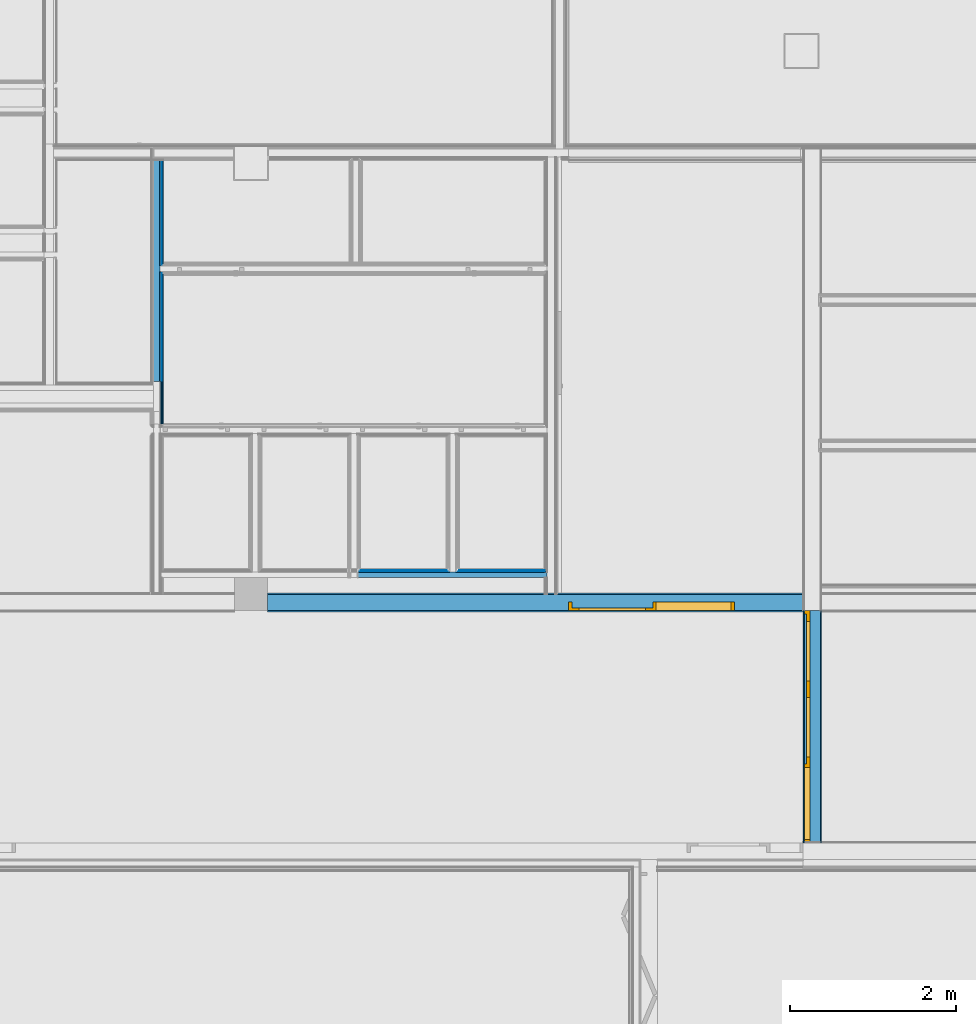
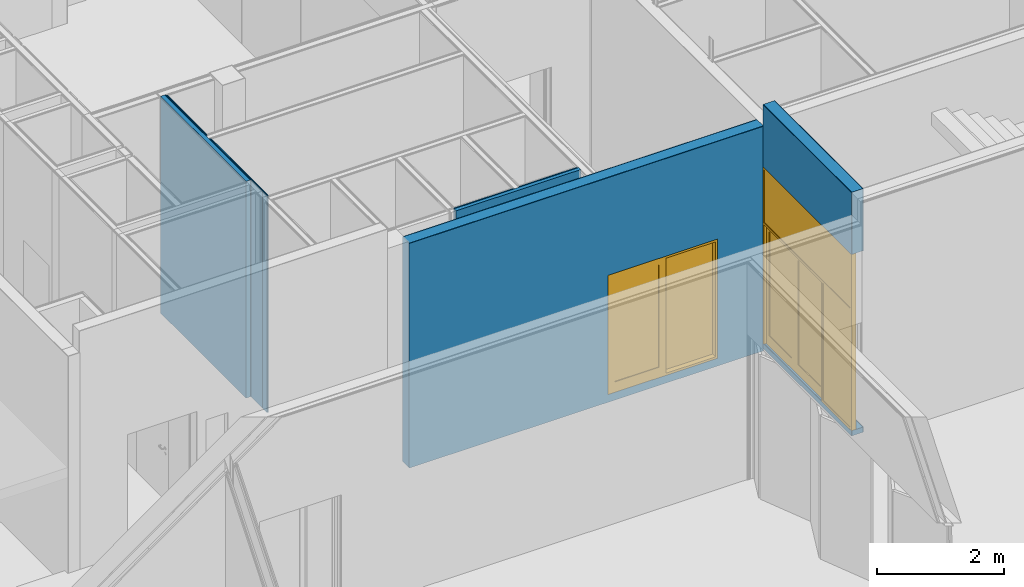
# One storey, part 199 of 260: 17 building element parts, 2 doors, 2 openings, 6 elements without a shape of their own.
"""IFC2X3 building model written with IfcOpenShell, lengths in millimetres."""

from ifc_helpers import new_model, entity, si_unit, converted_unit, derived_unit, money_unit, direction, frame, origin_with_axes, place, context, subcontext, project, spatial, open_shell, faceted_brep, surface_model, material, type_object, element, fill, aggregate, save


model = new_model("IFC2X3")

# Units and contexts
model_context = context("Model", 3, precision=0.01, world=origin_with_axes(), true_north=direction((0.0, 1.0)))
body_context = subcontext(model_context, "Body", "Model", "MODEL_VIEW")
ifc_project = project(units=[si_unit("LENGTHUNIT", "METRE", prefix="MILLI"), si_unit("AREAUNIT", "SQUARE_METRE"), si_unit("VOLUMEUNIT", "CUBIC_METRE"), converted_unit("PLANEANGLEUNIT", "DEGREE", entity("IfcPlaneAngleMeasure", 0.0174532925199), si_unit("PLANEANGLEUNIT", "RADIAN"), dimensions=[0, 0, 0, 0, 0, 0, 0]), money_unit("EUR"), converted_unit("TIMEUNIT", "Year", entity("IfcTimeMeasure", 31556926.0), si_unit("TIMEUNIT", "SECOND"), dimensions=[0, 0, 1, 0, 0, 0, 0]), si_unit("MASSUNIT", "GRAM", prefix="KILO"), si_unit("THERMODYNAMICTEMPERATUREUNIT", "DEGREE_CELSIUS"), si_unit("LUMINOUSINTENSITYUNIT", "LUMEN"), si_unit("ENERGYUNIT", "JOULE", prefix="MEGA"), derived_unit("THERMALCONDUCTANCEUNIT", [(si_unit("POWERUNIT", "WATT"), 1), (si_unit("LENGTHUNIT", "METRE"), -1), (si_unit("THERMODYNAMICTEMPERATUREUNIT", "KELVIN"), -1)]), derived_unit("SPECIFICHEATCAPACITYUNIT", [(si_unit("ENERGYUNIT", "JOULE"), 1), (si_unit("MASSUNIT", "GRAM", prefix="KILO"), -1), (si_unit("THERMODYNAMICTEMPERATUREUNIT", "KELVIN"), -1)]), derived_unit("MASSDENSITYUNIT", [(si_unit("MASSUNIT", "GRAM", prefix="KILO"), 1), (si_unit("VOLUMEUNIT", "CUBIC_METRE"), -1)])], contexts=[model_context])

# Site, building, storey
site_placement = place(None, origin_with_axes())
site = spatial("IfcSite", under=ifc_project, at=site_placement, Name="Kolde pst 67a", CompositionType="ELEMENT")
building_placement = place(site_placement, origin_with_axes())
building = spatial("IfcBuilding", under=site, at=building_placement, Name="Riigigümnaasium", CompositionType="ELEMENT")
storey_placement = place(building_placement, origin_with_axes())
storey = spatial("IfcBuildingStorey", under=building, at=storey_placement, Name="1. korrus", CompositionType="ELEMENT", Elevation=0.0)

# Door
door_style_1 = type_object("IfcDoorStyle", Name="Door with Sidelight on Side 2 25", ConstructionType="NOTDEFINED", OperationType="SINGLE_SWING_RIGHT", ParameterTakesPrecedence=False, Sizeable=False)
wall_4_placement = place(storey_placement, frame((70149.9993262, 10899.9619407, -150.0), z_axis=(0.0, 0.0, 1.0), x_axis=(1.0, 0.0, 0.0)))
opening_2_placement = place(wall_4_placement, frame((4629.47744012, 0.0, 150.0), z_axis=(0.0, 0.0, 1.0), x_axis=(1.0, 0.0, 0.0)))
door_1_placement = place(opening_2_placement, frame((1000.0, 0.0, 0.0), z_axis=(0.0, 0.0, 1.0), x_axis=(-1.0, 0.0, 0.0)))
door_1 = element("IfcDoor", 1, at=door_1_placement, inside=storey, type_object=door_style_1, Name="Siseuks", ObjectType="DOOR", OverallHeight=2300.0, OverallWidth=2000.0, context=body_context, shape_type="SurfaceModel", body=[
    faceted_brep([(0.0, 210.0, 0.0), (40.0, 210.0, 0.0), (40.0, 95.0, 0.0), (0.0, 95.0, 0.0), (0.0, 210.0, 2260.0), (40.0, 210.0, 2260.0), (40.0, 210.0, 40.0), (40.0, 95.0, 40.0), (40.0, 95.0, 2260.0), (0.0, 95.0, 2260.0)], [[[0, 1, 2, 3]], [[0, 4, 5, 6, 1]], [[1, 6, 7, 2]], [[3, 2, 7, 8, 9]], [[4, 0, 3, 9]], [[5, 4, 9, 8]], [[6, 5, 8, 7]]]),
    faceted_brep([(984.0, 170.0, 0.0), (984.0, 170.0, 2260.0), (984.0, 95.0, 2260.0), (984.0, 95.0, 0.0), (972.0, 170.0, 2260.0), (972.0, 170.0, 0.0), (972.0, 210.0, 2260.0), (944.0, 210.0, 2260.0), (944.0, 95.0, 2260.0), (944.0, 95.0, 0.0), (944.0, 95.0, 40.0), (944.0, 210.0, 0.0), (972.0, 210.0, 0.0), (944.0, 210.0, 40.0)], [[[0, 1, 2, 3]], [[4, 1, 0, 5]], [[4, 6, 7, 8, 2, 1]], [[9, 3, 2, 8, 10]], [[5, 0, 3, 9, 11, 12]], [[6, 4, 5, 12]], [[6, 12, 11, 13, 7]], [[13, 10, 8, 7]], [[11, 9, 10, 13]]]),
    faceted_brep([(40.0, 210.0, 40.0), (40.0, 210.0, 0.0), (40.0, 95.0, 0.0), (40.0, 95.0, 40.0), (944.0, 210.0, 40.0), (944.0, 210.0, 0.0), (944.0, 95.0, 0.0), (944.0, 95.0, 40.0)], [[[0, 1, 2, 3]], [[0, 4, 5, 1]], [[1, 5, 6, 2]], [[3, 2, 6, 7]], [[4, 0, 3, 7]], [[5, 4, 7, 6]]]),
    faceted_brep([(1972.0, 170.0, 2260.0), (1960.0, 170.0, 2260.0), (1960.0, 95.0, 2260.0), (2000.0, 95.0, 2260.0), (2000.0, 210.0, 2260.0), (1972.0, 210.0, 2260.0), (1972.0, 170.0, 0.0), (1960.0, 170.0, 0.0), (1960.0, 95.0, 0.0), (2000.0, 95.0, 0.0), (2000.0, 210.0, 0.0), (1972.0, 210.0, 0.0)], [[[0, 1, 2, 3, 4, 5]], [[1, 0, 6, 7]], [[1, 7, 8, 2]], [[3, 2, 8, 9]], [[4, 3, 9, 10]], [[11, 5, 4, 10]], [[0, 5, 11, 6]], [[6, 11, 10, 9, 8, 7]]]),
    faceted_brep([(972.0, 210.0, 2272.0), (972.0, 210.0, 2260.0), (944.0, 210.0, 2260.0), (40.0, 210.0, 2260.0), (0.0, 210.0, 2260.0), (0.0, 210.0, 2300.0), (2000.0, 210.0, 2300.0), (2000.0, 210.0, 2260.0), (1972.0, 210.0, 2260.0), (1972.0, 210.0, 2272.0), (972.0, 170.0, 2272.0), (972.0, 170.0, 2260.0), (1960.0, 170.0, 2260.0), (1960.0, 95.0, 2260.0), (984.0, 95.0, 2260.0), (944.0, 95.0, 2260.0), (40.0, 95.0, 2260.0), (0.0, 95.0, 2260.0), (0.0, 95.0, 2300.0), (2000.0, 95.0, 2300.0), (2000.0, 95.0, 2260.0), (1972.0, 170.0, 2260.0), (1972.0, 170.0, 2272.0)], [[[0, 1, 2, 3, 4, 5, 6, 7, 8, 9]], [[1, 0, 10, 11]], [[11, 12, 13, 14, 15, 2, 1]], [[2, 15, 16, 3]], [[3, 16, 17, 4]], [[4, 17, 18, 5]], [[5, 18, 19, 6]], [[6, 19, 20, 7]], [[21, 8, 7, 20, 13, 12]], [[9, 8, 21, 22]], [[0, 9, 22, 10]], [[21, 12, 11, 10, 22]], [[13, 20, 19, 18, 17, 16, 15, 14]]]),
    faceted_brep([(1972.0, 210.0, 200.0), (1972.0, 170.0, 200.0), (1872.0, 170.0, 200.0), (1872.0, 210.0, 200.0), (1972.0, 210.0, 2172.0), (1972.0, 170.0, 2172.0), (1872.0, 170.0, 2172.0), (1872.0, 210.0, 2172.0)], [[[0, 1, 2, 3]], [[4, 5, 1, 0]], [[1, 5, 6, 2]], [[3, 2, 6, 7]], [[0, 3, 7, 4]], [[7, 6, 5, 4]]]),
    faceted_brep([(972.0, 210.0, 200.0), (972.0, 170.0, 200.0), (972.0, 170.0, 2172.0), (972.0, 210.0, 2172.0), (1072.0, 210.0, 200.0), (1072.0, 170.0, 200.0), (1072.0, 170.0, 2172.0), (1072.0, 210.0, 2172.0)], [[[0, 1, 2, 3]], [[4, 5, 1, 0]], [[1, 5, 6, 2]], [[3, 2, 6, 7]], [[0, 3, 7, 4]], [[7, 6, 5, 4]]]),
    faceted_brep([(1972.0, 210.0, 0.0), (1972.0, 170.0, 0.0), (972.0, 170.0, 0.0), (972.0, 210.0, 0.0), (1972.0, 210.0, 200.0), (1972.0, 170.0, 200.0), (1872.0, 170.0, 200.0), (1072.0, 170.0, 200.0), (972.0, 170.0, 200.0), (972.0, 210.0, 200.0), (1072.0, 210.0, 200.0), (1872.0, 210.0, 200.0)], [[[0, 1, 2, 3]], [[4, 5, 1, 0]], [[1, 5, 6, 7, 8, 2]], [[3, 2, 8, 9]], [[0, 3, 9, 10, 11, 4]], [[11, 6, 5, 4]], [[10, 7, 6, 11]], [[9, 8, 7, 10]]]),
    faceted_brep([(1972.0, 210.0, 2272.0), (1972.0, 170.0, 2272.0), (1972.0, 170.0, 2172.0), (1972.0, 210.0, 2172.0), (972.0, 210.0, 2272.0), (972.0, 170.0, 2272.0), (972.0, 170.0, 2172.0), (1072.0, 170.0, 2172.0), (1872.0, 170.0, 2172.0), (1872.0, 210.0, 2172.0), (1072.0, 210.0, 2172.0), (972.0, 210.0, 2172.0)], [[[0, 1, 2, 3]], [[4, 5, 1, 0]], [[1, 5, 6, 7, 8, 2]], [[3, 2, 8, 9]], [[0, 3, 9, 10, 11, 4]], [[11, 6, 5, 4]], [[10, 7, 6, 11]], [[9, 8, 7, 10]]]),
    surface_model("IfcShellBasedSurfaceModel", [(1872.0, 196.0, 200.0), (1072.0, 196.0, 200.0), (1072.0, 196.0, 2172.0), (1872.0, 196.0, 2172.0)], [open_shell([[[0, 1, 2, 3]]])]),
    surface_model("IfcShellBasedSurfaceModel", [(1872.0, 184.0, 200.0), (1872.0, 184.0, 2172.0), (1072.0, 184.0, 2172.0), (1072.0, 184.0, 200.0)], [open_shell([[[0, 1, 2, 3]]])]),
    surface_model("IfcShellBasedSurfaceModel", [(40.0, 119.0, 40.0), (40.0, 119.0, 2260.0), (944.0, 119.0, 2260.0), (944.0, 119.0, 40.0)], [open_shell([[[0, 1, 2, 3]]])]),
    surface_model("IfcShellBasedSurfaceModel", [(40.0, 107.0, 40.0), (944.0, 107.0, 40.0), (944.0, 107.0, 2260.0), (40.0, 107.0, 2260.0)], [open_shell([[[0, 1, 2, 3]]])]),
])

door_style_2 = type_object("IfcDoorStyle", Name="Double Door with Sidelight, Transom 25", ConstructionType="NOTDEFINED", OperationType="USERDEFINED", ParameterTakesPrecedence=False, Sizeable=False)
wall_1_placement = place(storey_placement, frame((76619.9946975, 10699.9640326, -100.0), z_axis=(0.0, 0.0, 1.0), x_axis=(0.0, -1.0, 0.0)))
opening_1_placement = place(wall_1_placement, frame((1399.9640326, 0.0, 100.0), z_axis=(0.0, 0.0, 1.0), x_axis=(1.0, 0.0, 0.0)))
door_2_placement = place(opening_1_placement, frame((-1400.0, 0.0, 0.0), z_axis=(0.0, 0.0, 1.0), x_axis=(1.0, 0.0, 0.0)))
door_2 = element("IfcDoor", 2, at=door_2_placement, inside=storey, type_object=door_style_2, Name="Kahepoolne siseuks", ObjectType="DOOR", OverallHeight=3400.0, OverallWidth=2800.0, context=body_context, shape_type="SurfaceModel", body=[
    faceted_brep([(2800.0, 70.0, 0.0), (2800.0, -10.0, 0.0), (2760.0, -10.0, 0.0), (2760.0, 70.0, 0.0), (2800.0, 70.0, 3360.0), (2800.0, -10.0, 3360.0), (2760.0, -10.0, 3360.0), (2760.0, -10.0, 2340.0), (2760.0, -10.0, 2300.0), (2760.0, -10.0, 40.0), (2760.0, 70.0, 40.0), (2760.0, 70.0, 2300.0), (2760.0, 70.0, 2340.0), (2760.0, 70.0, 3360.0)], [[[0, 1, 2, 3]], [[4, 5, 1, 0]], [[1, 5, 6, 7, 8, 9, 2]], [[3, 2, 9, 10]], [[0, 3, 10, 11, 12, 13, 4]], [[13, 6, 5, 4]], [[12, 7, 6, 13]], [[11, 8, 7, 12]], [[10, 9, 8, 11]]]),
    faceted_brep([(1850.0, 30.0, 0.0), (1850.0, -10.0, 0.0), (1850.0, -10.0, 2300.0), (1850.0, 30.0, 2300.0), (1862.0, 30.0, 0.0), (1862.0, 70.0, 0.0), (1890.0, 70.0, 0.0), (1890.0, -10.0, 0.0), (1890.0, -10.0, 40.0), (1890.0, -10.0, 2300.0), (1862.0, 30.0, 2300.0), (1890.0, 70.0, 2300.0), (1862.0, 70.0, 2300.0), (1890.0, 70.0, 40.0)], [[[0, 1, 2, 3]], [[4, 5, 6, 7, 1, 0]], [[7, 8, 9, 2, 1]], [[10, 3, 2, 9, 11, 12]], [[10, 4, 0, 3]], [[12, 5, 4, 10]], [[12, 11, 13, 6, 5]], [[6, 13, 8, 7]], [[13, 11, 9, 8]]]),
    faceted_brep([(2760.0, 70.0, 40.0), (2760.0, -10.0, 40.0), (2760.0, -10.0, 0.0), (2760.0, 70.0, 0.0), (1890.0, 70.0, 40.0), (1890.0, -10.0, 40.0), (1890.0, -10.0, 0.0), (1890.0, 70.0, 0.0)], [[[0, 1, 2, 3]], [[4, 5, 1, 0]], [[1, 5, 6, 2]], [[3, 2, 6, 7]], [[0, 3, 7, 4]], [[7, 6, 5, 4]]]),
    faceted_brep([(28.0, 70.0, 2312.0), (28.0, 70.0, 0.0), (0.0, 70.0, 0.0), (0.0, 70.0, 3360.0), (40.0, 70.0, 3360.0), (40.0, 70.0, 2340.0), (40.0, 70.0, 2312.0), (28.0, 30.0, 2312.0), (28.0, 30.0, 0.0), (40.0, 30.0, 0.0), (40.0, -10.0, 0.0), (0.0, -10.0, 0.0), (0.0, -10.0, 3360.0), (40.0, -10.0, 3360.0), (40.0, -10.0, 2340.0), (40.0, 30.0, 2312.0), (40.0, -10.0, 2300.0)], [[[0, 1, 2, 3, 4, 5, 6]], [[0, 7, 8, 1]], [[8, 9, 10, 11, 2, 1]], [[3, 2, 11, 12]], [[4, 3, 12, 13]], [[5, 4, 13, 14]], [[15, 6, 5, 14, 16, 10, 9]], [[6, 15, 7, 0]], [[8, 7, 15, 9]], [[14, 13, 12, 11, 10, 16]]]),
    faceted_brep([(2800.0, 70.0, 3400.0), (2800.0, -10.0, 3400.0), (2800.0, -10.0, 3360.0), (2800.0, 70.0, 3360.0), (0.0, 70.0, 3400.0), (0.0, -10.0, 3400.0), (0.0, -10.0, 3360.0), (40.0, -10.0, 3360.0), (2760.0, -10.0, 3360.0), (2760.0, 70.0, 3360.0), (40.0, 70.0, 3360.0), (0.0, 70.0, 3360.0)], [[[0, 1, 2, 3]], [[4, 5, 1, 0]], [[1, 5, 6, 7, 8, 2]], [[3, 2, 8, 9]], [[0, 3, 9, 10, 11, 4]], [[11, 6, 5, 4]], [[10, 7, 6, 11]], [[9, 8, 7, 10]]]),
    faceted_brep([(40.0, 30.0, 2312.0), (40.0, 30.0, 2300.0), (40.0, -10.0, 2300.0), (40.0, -10.0, 2340.0), (40.0, 70.0, 2340.0), (40.0, 70.0, 2312.0), (1862.0, 30.0, 2312.0), (1862.0, 30.0, 2300.0), (1850.0, 30.0, 2300.0), (1850.0, -10.0, 2300.0), (1890.0, -10.0, 2300.0), (2760.0, -10.0, 2300.0), (2760.0, -10.0, 2340.0), (2760.0, 70.0, 2340.0), (1862.0, 70.0, 2312.0), (2760.0, 70.0, 2300.0), (1890.0, 70.0, 2300.0), (1862.0, 70.0, 2300.0)], [[[0, 1, 2, 3, 4, 5]], [[0, 6, 7, 8, 1]], [[8, 9, 2, 1]], [[9, 10, 11, 12, 3, 2]], [[13, 4, 3, 12]], [[14, 5, 4, 13, 15, 16, 17]], [[5, 14, 6, 0]], [[17, 7, 6, 14]], [[7, 17, 16, 10, 9, 8]], [[16, 15, 11, 10]], [[15, 13, 12, 11]]]),
    faceted_brep([(28.0, 70.0, 200.0), (128.0, 70.0, 200.0), (128.0, 30.0, 200.0), (28.0, 30.0, 200.0), (28.0, 70.0, 2212.0), (128.0, 70.0, 2212.0), (128.0, 30.0, 2212.0), (28.0, 30.0, 2212.0)], [[[0, 1, 2, 3]], [[0, 4, 5, 1]], [[1, 5, 6, 2]], [[3, 2, 6, 7]], [[4, 0, 3, 7]], [[5, 4, 7, 6]]]),
    faceted_brep([(945.0, 70.0, 200.0), (945.0, 70.0, 2212.0), (945.0, 30.0, 2212.0), (945.0, 30.0, 200.0), (845.0, 70.0, 200.0), (845.0, 70.0, 2212.0), (845.0, 30.0, 2212.0), (845.0, 30.0, 200.0)], [[[0, 1, 2, 3]], [[0, 4, 5, 1]], [[1, 5, 6, 2]], [[3, 2, 6, 7]], [[4, 0, 3, 7]], [[5, 4, 7, 6]]]),
    faceted_brep([(28.0, 70.0, 0.0), (945.0, 70.0, 0.0), (945.0, 30.0, 0.0), (28.0, 30.0, 0.0), (28.0, 70.0, 200.0), (128.0, 70.0, 200.0), (845.0, 70.0, 200.0), (945.0, 70.0, 200.0), (945.0, 30.0, 200.0), (845.0, 30.0, 200.0), (128.0, 30.0, 200.0), (28.0, 30.0, 200.0)], [[[0, 1, 2, 3]], [[0, 4, 5, 6, 7, 1]], [[1, 7, 8, 2]], [[3, 2, 8, 9, 10, 11]], [[4, 0, 3, 11]], [[5, 4, 11, 10]], [[6, 5, 10, 9]], [[7, 6, 9, 8]]]),
    faceted_brep([(28.0, 70.0, 2312.0), (28.0, 70.0, 2212.0), (28.0, 30.0, 2212.0), (28.0, 30.0, 2312.0), (945.0, 70.0, 2312.0), (945.0, 70.0, 2212.0), (845.0, 70.0, 2212.0), (128.0, 70.0, 2212.0), (128.0, 30.0, 2212.0), (845.0, 30.0, 2212.0), (945.0, 30.0, 2212.0), (945.0, 30.0, 2312.0)], [[[0, 1, 2, 3]], [[0, 4, 5, 6, 7, 1]], [[1, 7, 8, 2]], [[3, 2, 8, 9, 10, 11]], [[4, 0, 3, 11]], [[5, 4, 11, 10]], [[6, 5, 10, 9]], [[7, 6, 9, 8]]]),
    surface_model("IfcShellBasedSurfaceModel", [(128.0, 56.0, 200.0), (128.0, 56.0, 2212.0), (845.0, 56.0, 2212.0), (845.0, 56.0, 200.0)], [open_shell([[[0, 1, 2, 3]]])]),
    surface_model("IfcShellBasedSurfaceModel", [(128.0, 44.0, 200.0), (845.0, 44.0, 200.0), (845.0, 44.0, 2212.0), (128.0, 44.0, 2212.0)], [open_shell([[[0, 1, 2, 3]]])]),
    faceted_brep([(1862.0, 70.0, 200.0), (1862.0, 30.0, 200.0), (1762.0, 30.0, 200.0), (1762.0, 70.0, 200.0), (1862.0, 70.0, 2212.0), (1862.0, 30.0, 2212.0), (1762.0, 30.0, 2212.0), (1762.0, 70.0, 2212.0)], [[[0, 1, 2, 3]], [[4, 5, 1, 0]], [[1, 5, 6, 2]], [[3, 2, 6, 7]], [[0, 3, 7, 4]], [[7, 6, 5, 4]]]),
    faceted_brep([(945.0, 70.0, 200.0), (945.0, 30.0, 200.0), (945.0, 30.0, 2212.0), (945.0, 70.0, 2212.0), (1045.0, 70.0, 200.0), (1045.0, 30.0, 200.0), (1045.0, 30.0, 2212.0), (1045.0, 70.0, 2212.0)], [[[0, 1, 2, 3]], [[4, 5, 1, 0]], [[1, 5, 6, 2]], [[3, 2, 6, 7]], [[0, 3, 7, 4]], [[7, 6, 5, 4]]]),
    faceted_brep([(1862.0, 70.0, 0.0), (1862.0, 30.0, 0.0), (945.0, 30.0, 0.0), (945.0, 70.0, 0.0), (1862.0, 70.0, 200.0), (1862.0, 30.0, 200.0), (1762.0, 30.0, 200.0), (1045.0, 30.0, 200.0), (945.0, 30.0, 200.0), (945.0, 70.0, 200.0), (1045.0, 70.0, 200.0), (1762.0, 70.0, 200.0)], [[[0, 1, 2, 3]], [[4, 5, 1, 0]], [[1, 5, 6, 7, 8, 2]], [[3, 2, 8, 9]], [[0, 3, 9, 10, 11, 4]], [[11, 6, 5, 4]], [[10, 7, 6, 11]], [[9, 8, 7, 10]]]),
    faceted_brep([(1862.0, 70.0, 2312.0), (1862.0, 30.0, 2312.0), (1862.0, 30.0, 2212.0), (1862.0, 70.0, 2212.0), (945.0, 70.0, 2312.0), (945.0, 30.0, 2312.0), (945.0, 30.0, 2212.0), (1045.0, 30.0, 2212.0), (1762.0, 30.0, 2212.0), (1762.0, 70.0, 2212.0), (1045.0, 70.0, 2212.0), (945.0, 70.0, 2212.0)], [[[0, 1, 2, 3]], [[4, 5, 1, 0]], [[1, 5, 6, 7, 8, 2]], [[3, 2, 8, 9]], [[0, 3, 9, 10, 11, 4]], [[11, 6, 5, 4]], [[10, 7, 6, 11]], [[9, 8, 7, 10]]]),
    surface_model("IfcShellBasedSurfaceModel", [(1762.0, 56.0, 200.0), (1045.0, 56.0, 200.0), (1045.0, 56.0, 2212.0), (1762.0, 56.0, 2212.0)], [open_shell([[[0, 1, 2, 3]]])]),
    surface_model("IfcShellBasedSurfaceModel", [(1762.0, 44.0, 200.0), (1762.0, 44.0, 2212.0), (1045.0, 44.0, 2212.0), (1045.0, 44.0, 200.0)], [open_shell([[[0, 1, 2, 3]]])]),
    surface_model("IfcShellBasedSurfaceModel", [(2760.0, 14.0, 2340.0), (40.0, 14.0, 2340.0), (40.0, 14.0, 3360.0), (2760.0, 14.0, 3360.0)], [open_shell([[[0, 1, 2, 3]]])]),
    surface_model("IfcShellBasedSurfaceModel", [(2760.0, 2.0, 2340.0), (2760.0, 2.0, 3360.0), (40.0, 2.0, 3360.0), (40.0, 2.0, 2340.0)], [open_shell([[[0, 1, 2, 3]]])]),
    surface_model("IfcShellBasedSurfaceModel", [(2760.0, 14.0, 40.0), (1890.0, 14.0, 40.0), (1890.0, 14.0, 2300.0), (2760.0, 14.0, 2300.0)], [open_shell([[[0, 1, 2, 3]]])]),
    surface_model("IfcShellBasedSurfaceModel", [(2760.0, 2.0, 40.0), (2760.0, 2.0, 2300.0), (1890.0, 2.0, 2300.0), (1890.0, 2.0, 40.0)], [open_shell([[[0, 1, 2, 3]]])]),
])

# Wall, opening
wall_type_1 = type_object("IfcWallType", Name="SS-RB-20/1_+2 krohv 55 dB 220", PredefinedType="NOTDEFINED")
wall_1 = element("IfcWall", 3, at=wall_1_placement, inside=storey, type_object=wall_type_1, Name="Sisesein")
opening_1 = element("IfcOpeningElement", 4, at=opening_1_placement, cuts=wall_1, Name="Kahepoolne siseuks", context=body_context, shape_type="Brep", body=[
    faceted_brep([(-1400.0, -440.0, 0.0), (-1400.0, -440.0, 3400.0), (-1400.0, 220.0, 3400.0), (-1400.0, 220.0, 0.0), (1400.0, -440.0, 0.0), (1400.0, -440.0, 3400.0), (1400.0, 220.0, 3400.0), (1400.0, 220.0, 0.0)], [[[0, 1, 2, 3]], [[0, 4, 5, 1]], [[1, 5, 6, 2]], [[3, 2, 6, 7]], [[4, 0, 3, 7]], [[5, 4, 7, 6]]]),
])

fill(opening_1, door_2)

# Building element part
ifc_material_1 = material(Name="_VIIMISTLUSKIHT - viimistlus vastavalt SA osale")
building_element_part_1_placement = place(wall_1_placement, origin_with_axes())
building_element_part_1 = element("IfcBuildingElementPart", 5, at=building_element_part_1_placement, material=ifc_material_1, Name="_VIIMISTLUSKIHT - viimistlus vastavalt SA osale", context=body_context, shape_type="Brep", body=[
    faceted_brep([(0.0, 200.0, 100.0), (0.0, 210.0, 100.0), (0.0, 210.0, 0.0), (0.0, 200.0, 0.0), (2799.9640326, 210.0, 100.0), (2799.9640326, 200.0, 100.0), (2799.9640326, 210.0, 0.0), (2799.9640326, 200.0, 0.0)], [[[0, 1, 2, 3]], [[4, 1, 0, 5]], [[1, 4, 6, 2]], [[7, 3, 2, 6]], [[5, 0, 3, 7]], [[4, 5, 7, 6]]]),
    faceted_brep([(2799.9640326, 210.0, 3500.0), (0.0, 210.0, 3500.0), (0.0, 210.0, 4700.0), (2799.9640326, 210.0, 4700.0), (0.0, 200.0, 3500.0), (2799.9640326, 200.0, 3500.0), (0.0, 200.0, 4700.0), (2799.9640326, 200.0, 4700.0)], [[[0, 1, 2, 3]], [[4, 1, 0, 5]], [[1, 4, 6, 2]], [[3, 2, 6, 7]], [[5, 0, 3, 7]], [[4, 5, 7, 6]]]),
])

ifc_material_2 = material(Name="_KANDETARIND - monteeritav raudbetoon vastavalt EK osale")
building_element_part_2_placement = place(wall_1_placement, origin_with_axes())
building_element_part_2 = element("IfcBuildingElementPart", 6, at=building_element_part_2_placement, material=ifc_material_2, Name="_KANDETARIND - monteeritav raudbetoon vastavalt EK osale", context=body_context, shape_type="Brep", body=[
    faceted_brep([(0.0, 0.0, 100.0), (0.0, 200.0, 100.0), (0.0, 200.0, 0.0), (0.0, 0.0, 0.0), (2799.9640326, 200.0, 100.0), (2799.9640326, 0.0, 100.0), (2799.9640326, 200.0, 0.0), (2799.9640326, 0.0, 0.0)], [[[0, 1, 2, 3]], [[4, 1, 0, 5]], [[1, 4, 6, 2]], [[7, 3, 2, 6]], [[5, 0, 3, 7]], [[4, 5, 7, 6]]]),
    faceted_brep([(2799.9640326, 200.0, 3500.0), (0.0, 200.0, 3500.0), (0.0, 200.0, 4700.0), (2799.9640326, 200.0, 4700.0), (0.0, 0.0, 3500.0), (2799.9640326, 0.0, 3500.0), (0.0, 0.0, 4700.0), (2799.9640326, 0.0, 4700.0)], [[[0, 1, 2, 3]], [[4, 1, 0, 5]], [[1, 4, 6, 2]], [[3, 2, 6, 7]], [[5, 0, 3, 7]], [[4, 5, 7, 6]]]),
])

building_element_part_3_placement = place(wall_1_placement, origin_with_axes())
building_element_part_3 = element("IfcBuildingElementPart", 7, at=building_element_part_3_placement, material=ifc_material_1, Name="_VIIMISTLUSKIHT - viimistlus vastavalt SA osale", context=body_context, shape_type="Brep", body=[
    faceted_brep([(0.0, -10.0, 100.0), (0.0, 0.0, 100.0), (0.0, 0.0, 0.0), (0.0, -10.0, 0.0), (2799.9640326, 0.0, 100.0), (2799.9640326, -10.0, 100.0), (2799.9640326, 0.0, 0.0), (2799.9640326, -10.0, 0.0)], [[[0, 1, 2, 3]], [[4, 1, 0, 5]], [[1, 4, 6, 2]], [[7, 3, 2, 6]], [[5, 0, 3, 7]], [[4, 5, 7, 6]]]),
    faceted_brep([(2799.9640326, 0.0, 3500.0), (0.0, 0.0, 3500.0), (0.0, 0.0, 4700.0), (2799.9640326, 0.0, 4700.0), (0.0, -10.0, 3500.0), (2799.9640326, -10.0, 3500.0), (0.0, -10.0, 4700.0), (2799.9640326, -10.0, 4700.0)], [[[0, 1, 2, 3]], [[4, 1, 0, 5]], [[1, 4, 6, 2]], [[3, 2, 6, 7]], [[5, 0, 3, 7]], [[4, 5, 7, 6]]]),
])

aggregate(wall_1, [building_element_part_1, building_element_part_2, building_element_part_3])

# Wall, building element parts
wall_type_2 = type_object("IfcWallType", Name="SS-MK-66/3_šahti sein+plaat 106", PredefinedType="NOTDEFINED")
wall_2_placement = place(storey_placement, frame((73479.99953, 11204.9619407, 0.0), z_axis=(0.0, 0.0, 1.0), x_axis=(-1.0, 0.0, 0.0)))
wall_2 = element("IfcWall", 8, at=wall_2_placement, inside=storey, type_object=wall_type_2, Name="Varisein")
ifc_material_3 = material(Name="_KARKASS - metallkarkass CW 75/50, mineraalvill karkassi vahel")
building_element_part_4_placement = place(wall_2_placement, origin_with_axes())
building_element_part_4 = element("IfcBuildingElementPart", 9, at=building_element_part_4_placement, material=ifc_material_3, Name="_KARKASS - metallkarkass CW 75/50, mineraalvill karkassi vahel", context=body_context, shape_type="Brep", body=[
    faceted_brep([(2237.50133314, 106.0, 0.0), (2237.50133314, 40.0, 0.0), (-40.0, 40.0, 0.0), (-40.0, 106.0, 0.0), (2237.50133314, 106.0, 4185.0), (2237.50133314, 40.0, 4185.0), (-40.0, 40.0, 4185.0), (-40.0, 106.0, 4185.0)], [[[0, 1, 2, 3]], [[0, 4, 5, 1]], [[1, 5, 6, 2]], [[3, 2, 6, 7]], [[4, 0, 3, 7]], [[5, 4, 7, 6]]]),
])
ifc_material_4 = material(Name="_PLAATMATERJAL - kipsplaat veekindel")
building_element_part_5_placement = place(wall_2_placement, origin_with_axes())
building_element_part_5 = element("IfcBuildingElementPart", 10, at=building_element_part_5_placement, material=ifc_material_4, Name="_PLAATMATERJAL - kipsplaat veekindel", context=body_context, shape_type="Brep", body=[
    faceted_brep([(1060.00134351, 27.5, 0.0), (-27.5, 27.5, 0.0), (-27.5, 40.0, 0.0), (1060.00135388, 40.0, 0.0), (1060.00134351, 27.5, 4185.0), (-27.5, 27.5, 4185.0), (-27.5, 40.0, 4185.0), (1060.00135388, 40.0, 4185.0)], [[[0, 1, 2, 3]], [[4, 5, 1, 0]], [[2, 1, 5, 6]], [[3, 2, 6, 7]], [[3, 7, 4, 0]], [[7, 6, 5, 4]]]),
    faceted_brep([(2237.50133314, 40.0, 0.0), (2237.50133314, 27.5, 0.0), (1135.00134351, 27.5, 0.0), (1135.00135388, 40.0, 0.0), (2237.50133314, 40.0, 4185.0), (2237.50133314, 27.5, 4185.0), (1135.00134351, 27.5, 4185.0), (1135.00135388, 40.0, 4185.0)], [[[0, 1, 2, 3]], [[0, 4, 5, 1]], [[1, 5, 6, 2]], [[3, 2, 6, 7]], [[4, 0, 3, 7]], [[5, 4, 7, 6]]]),
])
building_element_part_6_placement = place(wall_2_placement, origin_with_axes())
building_element_part_6 = element("IfcBuildingElementPart", 11, at=building_element_part_6_placement, material=ifc_material_4, Name="_PLAATMATERJAL - kipsplaat veekindel", context=body_context, shape_type="Brep", body=[
    faceted_brep([(1047.50133314, 15.0, 0.0), (-15.0, 15.0, 0.0), (-15.0, 27.5, 0.0), (1047.50134351, 27.5, 0.0), (1047.50133314, 15.0, 4185.0), (-15.0, 15.0, 4185.0), (-15.0, 27.5, 4185.0), (1047.50134351, 27.5, 4185.0)], [[[0, 1, 2, 3]], [[4, 5, 1, 0]], [[2, 1, 5, 6]], [[3, 2, 6, 7]], [[3, 7, 4, 0]], [[7, 6, 5, 4]]]),
    faceted_brep([(2237.50133314, 15.0, 0.0), (1147.50133314, 15.0, 0.0), (1147.50134351, 27.5, 0.0), (2237.50133314, 27.5, 0.0), (2237.50133314, 15.0, 4185.0), (1147.50133314, 15.0, 4185.0), (1147.50134351, 27.5, 4185.0), (2237.50133314, 27.5, 4185.0)], [[[0, 1, 2, 3]], [[4, 5, 1, 0]], [[2, 1, 5, 6]], [[3, 2, 6, 7]], [[3, 7, 4, 0]], [[7, 6, 5, 4]]]),
])
aggregate(wall_2, [building_element_part_4, building_element_part_5, building_element_part_6])

wall_type_3 = type_object("IfcWallType", Name="SS-MK-7,5/1_plaat+värv 145", PredefinedType="NOTDEFINED")
wall_3_placement = place(storey_placement, frame((68889.9994775, 16130.0101654, 0.0), z_axis=(0.0, 0.0, 1.0), x_axis=(0.0, -1.0, 0.0)))
wall_3 = element("IfcWall", 12, at=wall_3_placement, inside=storey, type_object=wall_type_3, Name="Sisesein")
building_element_part_7_placement = place(wall_3_placement, origin_with_axes())
building_element_part_7 = element("IfcBuildingElementPart", 13, at=building_element_part_7_placement, material=ifc_material_1, Name="_VIIMISTLUSKIHT - viimistlus vastavalt SA osale", context=body_context, shape_type="Brep", body=[
    faceted_brep([(1370.00084763, -14.9999992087, 4185.0), (1370.00085477, -6.5942629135e-07, 4185.0), (1370.00085477, 0.0, 0.0), (1370.00084763, -15.0, 0.0), (2667.51022955, 0.0, 4185.0), (2667.51022955, -15.0, 4185.0), (2667.51022955, 0.0, 0.0), (2667.51022955, -15.0, 0.0)], [[[0, 1, 2, 3]], [[4, 1, 0, 5]], [[1, 4, 6, 2]], [[7, 3, 2, 6]], [[5, 0, 3, 7]], [[4, 5, 7, 6]]]),
    faceted_brep([(-15.0000107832, -14.9999982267, 4185.0), (-15.0, -1.47775836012e-06, 4185.0), (-15.0, 0.0, 0.0), (-15.0000107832, -15.0, 0.0), (1245.00085477, -7.22948811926e-07, 4185.0), (1245.00084763, -14.9999991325, 4185.0), (1245.00085477, 0.0, 0.0), (1245.00084763, -15.0, 0.0)], [[[0, 1, 2, 3]], [[4, 1, 0, 5]], [[1, 4, 6, 2]], [[7, 3, 2, 6]], [[5, 0, 3, 7]], [[4, 5, 7, 6]]]),
])
building_element_part_8_placement = place(wall_3_placement, origin_with_axes())
building_element_part_8 = element("IfcBuildingElementPart", 14, at=building_element_part_8_placement, material=ifc_material_4, Name="_PLAATMATERJAL - kipsplaat veekindel", context=body_context, shape_type="Brep", body=[
    faceted_brep([(1357.50084167, -27.5, 4185.0), (1357.50084763, -14.9999992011, 4185.0), (1357.50084763, -15.0, 0.0), (1357.50084167, -27.5, 0.0), (2667.51022955, -15.0, 4185.0), (2667.51022955, -27.5, 4185.0), (2667.51022955, -15.0, 0.0), (2667.51022955, -27.5, 0.0)], [[[0, 1, 2, 3]], [[4, 1, 0, 5]], [[1, 4, 6, 2]], [[7, 3, 2, 6]], [[5, 0, 3, 7]], [[4, 5, 7, 6]]]),
    faceted_brep([(-27.5000197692, -27.5, 4185.0), (-27.5000107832, -14.9999982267, 4185.0), (-27.5000107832, -15.0, 0.0), (-27.5000197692, -27.5, 0.0), (1257.50084763, -14.9999991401, 4185.0), (1257.50084167, -27.5, 4185.0), (1257.50084763, -15.0, 0.0), (1257.50084167, -27.5, 0.0)], [[[0, 1, 2, 3]], [[4, 1, 0, 5]], [[1, 4, 6, 2]], [[7, 3, 2, 6]], [[5, 0, 3, 7]], [[4, 5, 7, 6]]]),
])
building_element_part_9_placement = place(wall_3_placement, origin_with_axes())
building_element_part_9 = element("IfcBuildingElementPart", 15, at=building_element_part_9_placement, material=ifc_material_4, Name="_PLAATMATERJAL - kipsplaat veekindel", context=body_context, shape_type="Brep", body=[
    faceted_brep([(1345.00083572, -40.0000001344, 4185.0), (1345.00084167, -27.5, 4185.0), (1345.00084167, -27.5, 0.0), (1345.00083572, -40.0, 0.0), (2667.51022955, -27.5, 4185.0), (2667.51022955, -40.0, 4185.0), (2667.51022955, -27.5, 0.0), (2667.51022955, -40.0, 0.0)], [[[0, 1, 2, 3]], [[4, 1, 0, 5]], [[1, 4, 6, 2]], [[7, 3, 2, 6]], [[5, 0, 3, 7]], [[4, 5, 7, 6]]]),
    faceted_brep([(-40.0000287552, -40.0000002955, 4185.0), (-40.0000197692, -27.5, 4185.0), (-40.0000197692, -27.5, 0.0), (-40.0000287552, -40.0, 0.0), (1270.00084167, -27.5, 4185.0), (1270.00083572, -40.0000001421, 4185.0), (1270.00084167, -27.5, 0.0), (1270.00083572, -40.0, 0.0)], [[[0, 1, 2, 3]], [[4, 1, 0, 5]], [[1, 4, 6, 2]], [[7, 3, 2, 6]], [[5, 0, 3, 7]], [[4, 5, 7, 6]]]),
])
building_element_part_10_placement = place(wall_3_placement, origin_with_axes())
building_element_part_10 = element("IfcBuildingElementPart", 16, at=building_element_part_10_placement, material=ifc_material_3, Name="_KARKASS - metallkarkass CW 75/50, mineraalvill karkassi vahel", context=body_context, shape_type="Brep", body=[
    faceted_brep([(-40.0000826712, -115.000000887, 4185.0), (-40.0000287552, -40.0000002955, 4185.0), (-40.0000287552, -40.0, 0.0), (-40.0000826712, -115.0, 0.0), (2667.51022955, -40.0, 4185.0), (2667.51022955, -115.0, 4185.0), (2667.51022955, -40.0, 0.0), (2667.51022955, -115.0, 0.0)], [[[0, 1, 2, 3]], [[4, 1, 0, 5]], [[1, 4, 6, 2]], [[7, 3, 2, 6]], [[5, 0, 3, 7]], [[4, 5, 7, 6]]]),
])
aggregate(wall_3, [building_element_part_7, building_element_part_8, building_element_part_9, building_element_part_10])

# Wall, opening
wall_4 = element("IfcWall", 17, at=wall_4_placement, inside=storey, type_object=wall_type_1, Name="Sisesein")
opening_2 = element("IfcOpeningElement", 18, at=opening_2_placement, cuts=wall_4, Name="Siseuks", context=body_context, shape_type="Brep", body=[
    faceted_brep([(-1000.0, 220.0, 2300.0), (-1000.0, 220.0, 0.0), (-1000.0, -440.0, 0.0), (-1000.0, -440.0, 2300.0), (1000.0, 220.0, 2300.0), (1000.0, 220.0, 0.0), (1000.0, -440.0, 0.0), (1000.0, -440.0, 2300.0)], [[[0, 1, 2, 3]], [[0, 4, 5, 1]], [[1, 5, 6, 2]], [[3, 2, 6, 7]], [[4, 0, 3, 7]], [[5, 4, 7, 6]]]),
])

fill(opening_2, door_1)

# Building element part
building_element_part_11_placement = place(wall_4_placement, origin_with_axes())
building_element_part_11 = element("IfcBuildingElementPart", 19, at=building_element_part_11_placement, material=ifc_material_1, Name="_VIIMISTLUSKIHT - viimistlus vastavalt SA osale", context=body_context, shape_type="Brep", body=[
    faceted_brep([(6469.99537117, 0.0, 4335.0), (0.0, 0.0, 4335.0), (0.0, 0.0, 0.0), (6469.99537117, 0.0, 0.0), (3629.47744012, 0.0, 150.0), (3629.47744012, 0.0, 2450.0), (5629.47744012, 0.0, 2450.0), (5629.47744012, 0.0, 150.0), (6469.99537117, 10.0, 4335.0), (0.0, 10.0, 4335.0), (0.0, 10.0, 0.0), (6469.99537117, 10.0, 0.0), (3629.47744012, 10.0, 150.0), (3629.47744012, 10.0, 2450.0), (5629.47744012, 10.0, 2450.0), (5629.47744012, 10.0, 150.0)], [[[0, 1, 2, 3], [4, 5, 6, 7]], [[8, 9, 1, 0]], [[9, 10, 2, 1]], [[3, 2, 10, 11]], [[3, 11, 8, 0]], [[12, 13, 5, 4]], [[13, 14, 6, 5]], [[14, 15, 7, 6]], [[15, 12, 4, 7]], [[11, 10, 9, 8], [12, 15, 14, 13]]]),
])

building_element_part_12_placement = place(wall_4_placement, origin_with_axes())
building_element_part_12 = element("IfcBuildingElementPart", 20, at=building_element_part_12_placement, material=ifc_material_2, Name="_KANDETARIND - monteeritav raudbetoon vastavalt EK osale", context=body_context, shape_type="Brep", body=[
    faceted_brep([(6469.99537117, -200.0, 4335.0), (0.0, -200.0, 4335.0), (0.0, -200.0, 0.0), (6469.99537117, -200.0, 0.0), (3629.47744012, -200.0, 150.0), (3629.47744012, -200.0, 2450.0), (5629.47744012, -200.0, 2450.0), (5629.47744012, -200.0, 150.0), (6469.99537117, 0.0, 4335.0), (0.0, 0.0, 4335.0), (0.0, 0.0, 0.0), (6469.99537117, 0.0, 0.0), (3629.47744012, 0.0, 150.0), (3629.47744012, 0.0, 2450.0), (5629.47744012, 0.0, 2450.0), (5629.47744012, 0.0, 150.0)], [[[0, 1, 2, 3], [4, 5, 6, 7]], [[8, 9, 1, 0]], [[9, 10, 2, 1]], [[3, 2, 10, 11]], [[3, 11, 8, 0]], [[12, 13, 5, 4]], [[13, 14, 6, 5]], [[14, 15, 7, 6]], [[15, 12, 4, 7]], [[11, 10, 9, 8], [12, 15, 14, 13]]]),
])

building_element_part_13_placement = place(wall_4_placement, origin_with_axes())
building_element_part_13 = element("IfcBuildingElementPart", 21, at=building_element_part_13_placement, material=ifc_material_1, Name="_VIIMISTLUSKIHT - viimistlus vastavalt SA osale", context=body_context, shape_type="Brep", body=[
    faceted_brep([(6469.99537117, -210.0, 4335.0), (0.0, -210.0, 4335.0), (0.0, -210.0, 0.0), (6469.99537117, -210.0, 0.0), (3629.47744012, -210.0, 150.0), (3629.47744012, -210.0, 2450.0), (5629.47744012, -210.0, 2450.0), (5629.47744012, -210.0, 150.0), (6469.99537117, -200.0, 4335.0), (0.0, -200.0, 4335.0), (0.0, -200.0, 0.0), (6469.99537117, -200.0, 0.0), (3629.47744012, -200.0, 150.0), (3629.47744012, -200.0, 2450.0), (5629.47744012, -200.0, 2450.0), (5629.47744012, -200.0, 150.0)], [[[0, 1, 2, 3], [4, 5, 6, 7]], [[8, 9, 1, 0]], [[9, 10, 2, 1]], [[3, 2, 10, 11]], [[3, 11, 8, 0]], [[12, 13, 5, 4]], [[13, 14, 6, 5]], [[14, 15, 7, 6]], [[15, 12, 4, 7]], [[11, 10, 9, 8], [12, 15, 14, 13]]]),
])

aggregate(wall_4, [building_element_part_11, building_element_part_12, building_element_part_13])

# Wall, building element parts
wall_type_4 = type_object("IfcWallType", Name="SS-MK-7,5/_plaatvarisein 115", PredefinedType="NOTDEFINED")
wall_5_placement = place(storey_placement, frame((68889.9994775, 13462.4999358, 0.0), z_axis=(0.0, 0.0, 1.0), x_axis=(0.0, -1.0, 0.0)))
wall_5 = element("IfcWall", 22, at=wall_5_placement, inside=storey, type_object=wall_type_4, Name="Sisesein")
building_element_part_14_placement = place(wall_5_placement, origin_with_axes())
building_element_part_14 = element("IfcBuildingElementPart", 23, at=building_element_part_14_placement, material=ifc_material_1, Name="_VIIMISTLUSKIHT - viimistlus vastavalt SA osale", context=body_context, shape_type="Brep", body=[
    faceted_brep([(0.0, -15.0, 4185.0), (0.0, 0.0, 4185.0), (0.0, 0.0, 0.0), (0.0, -15.0, 0.0), (362.499954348, 0.0, 4185.0), (362.499954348, -15.0, 4185.0), (362.499954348, 0.0, 0.0), (362.499954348, -15.0, 0.0)], [[[0, 1, 2, 3]], [[4, 1, 0, 5]], [[1, 4, 6, 2]], [[3, 2, 6, 7]], [[5, 0, 3, 7]], [[4, 5, 7, 6]]]),
])
building_element_part_15_placement = place(wall_5_placement, origin_with_axes())
building_element_part_15 = element("IfcBuildingElementPart", 24, at=building_element_part_15_placement, material=ifc_material_4, Name="_PLAATMATERJAL - kipsplaat veekindel", context=body_context, shape_type="Brep", body=[
    faceted_brep([(0.0, -27.5, 4185.0), (0.0, -15.0, 4185.0), (0.0, -15.0, 0.0), (0.0, -27.5, 0.0), (362.499954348, -15.0, 4185.0), (362.499954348, -27.5, 4185.0), (362.499954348, -15.0, 0.0), (362.499954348, -27.5, 0.0)], [[[0, 1, 2, 3]], [[4, 1, 0, 5]], [[1, 4, 6, 2]], [[3, 2, 6, 7]], [[5, 0, 3, 7]], [[4, 5, 7, 6]]]),
])
aggregate(wall_5, [building_element_part_14, building_element_part_15])

wall_type_5 = type_object("IfcWallType", Name="SS-MK-7,5/1_plaaditud 155", PredefinedType="NOTDEFINED")
wall_6_placement = place(storey_placement, frame((68889.9994775, 13099.9999815, 0.0), z_axis=(0.0, 0.0, 1.0), x_axis=(0.0, -1.0, 0.0)))
wall_6 = element("IfcWall", 25, at=wall_6_placement, inside=storey, type_object=wall_type_5, Name="Sisesein")
building_element_part_16_placement = place(wall_6_placement, origin_with_axes())
building_element_part_16 = element("IfcBuildingElementPart", 26, at=building_element_part_16_placement, material=ifc_material_1, Name="_VIIMISTLUSKIHT - viimistlus vastavalt SA osale", context=body_context, shape_type="Brep", body=[
    faceted_brep([(0.0, -15.0, 4185.0), (0.0, 0.0, 4185.0), (0.0, 0.0, 0.0), (0.0, -15.0, 0.0), (148.104706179, 0.0, 4185.0), (148.104706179, -15.0, 4185.0), (148.104706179, 0.0, 0.0), (148.104706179, -15.0, 0.0)], [[[0, 1, 2, 3]], [[4, 1, 0, 5]], [[1, 4, 6, 2]], [[3, 2, 6, 7]], [[5, 0, 3, 7]], [[4, 5, 7, 6]]]),
])
building_element_part_17_placement = place(wall_6_placement, origin_with_axes())
building_element_part_17 = element("IfcBuildingElementPart", 27, at=building_element_part_17_placement, material=ifc_material_4, Name="_PLAATMATERJAL - kipsplaat veekindel", context=body_context, shape_type="Brep", body=[
    faceted_brep([(0.0, -27.5, 4185.0), (0.0, -15.0, 4185.0), (0.0, -15.0, 0.0), (0.0, -27.5, 0.0), (148.104706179, -15.0, 4185.0), (148.104706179, -27.5, 4185.0), (148.104706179, -15.0, 0.0), (148.104706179, -27.5, 0.0)], [[[0, 1, 2, 3]], [[4, 1, 0, 5]], [[1, 4, 6, 2]], [[3, 2, 6, 7]], [[5, 0, 3, 7]], [[4, 5, 7, 6]]]),
])
aggregate(wall_6, [building_element_part_16, building_element_part_17])

save(model, "model.ifc")
